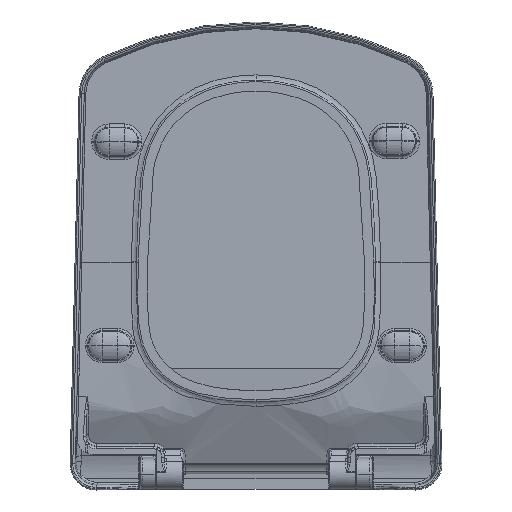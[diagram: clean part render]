
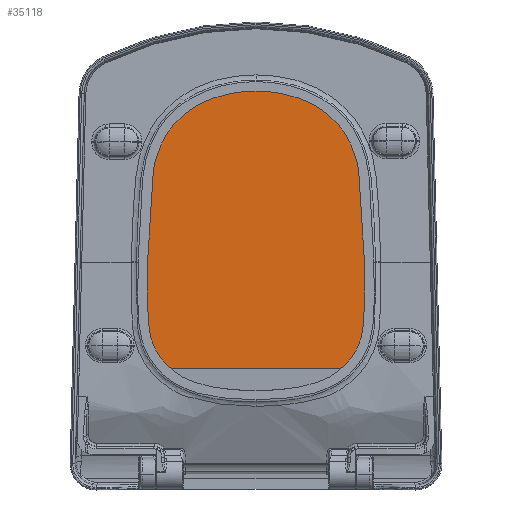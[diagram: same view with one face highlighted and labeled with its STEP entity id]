
A CAD part, front view. The second image highlights one B-rep face of the part: STEP entity #35118.
In plain terms, the highlighted planar face has unit normal (0, -1, 0).
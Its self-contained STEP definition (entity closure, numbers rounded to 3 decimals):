
#440 = CARTESIAN_POINT ( 'NONE',  ( 161.93, 213.99, -17.852 ) ) ;
#575 = CARTESIAN_POINT ( 'NONE',  ( -147.024, 213.99, -306.242 ) ) ;
#774 = EDGE_CURVE ( 'NONE', #20726, #27649, #38428, .T. ) ;
#1004 = CARTESIAN_POINT ( 'NONE',  ( -140.69, 213.99, -43.438 ) ) ;
#1541 = EDGE_CURVE ( 'NONE', #27649, #38213, #8026, .T. ) ;
#3221 = DIRECTION ( 'NONE',  ( 0., 1., 0. ) ) ;
#4021 = CARTESIAN_POINT ( 'NONE',  ( 177.49, 213.99, -40.699 ) ) ;
#4303 = CARTESIAN_POINT ( 'NONE',  ( 170.842, 213.99, -25.217 ) ) ;
#4448 = ORIENTED_EDGE ( 'NONE', *, *, #8669, .F. ) ;
#4754 = EDGE_CURVE ( 'NONE', #5029, #38213, #8108, .T. ) ;
#5029 = VERTEX_POINT ( 'NONE', #9802 ) ;
#5719 = CARTESIAN_POINT ( 'NONE',  ( -140.69, 213.99, -43.438 ) ) ;
#5764 = CARTESIAN_POINT ( 'NONE',  ( -128.421, 213.99, -20.033 ) ) ;
#7118 = CARTESIAN_POINT ( 'NONE',  ( 165.385, 213.99, -20.033 ) ) ;
#7542 = EDGE_CURVE ( 'NONE', #8763, #39810, #27112, .T. ) ;
#8026 = B_SPLINE_CURVE_WITH_KNOTS ( 'NONE', 3,
 ( #1004, #34997, #20899, #575 ),
 .UNSPECIFIED., .F., .F.,
 ( 4, 4 ),
 ( -0.054, 0.209 ),
 .UNSPECIFIED. ) ;
#8108 = LINE ( 'NONE', #16728, #29921 ) ;
#8669 = EDGE_CURVE ( 'NONE', #39810, #5029, #11819, .T. ) ;
#8763 = VERTEX_POINT ( 'NONE', #36428 ) ;
#8807 = ORIENTED_EDGE ( 'NONE', *, *, #7542, .F. ) ;
#8997 = CARTESIAN_POINT ( 'NONE',  ( -139.769, 213.99, -36.69 ) ) ;
#9057 = CARTESIAN_POINT ( 'NONE',  ( -140.69, 213.99, -43.438 ) ) ;
#9144 = CARTESIAN_POINT ( 'NONE',  ( -138.164, 213.99, -32.167 ) ) ;
#9328 = CARTESIAN_POINT ( 'NONE',  ( -137.293, 213.99, -30.313 ) ) ;
#9802 = CARTESIAN_POINT ( 'NONE',  ( 183.987, 213.99, -306.242 ) ) ;
#9808 = AXIS2_PLACEMENT_3D ( 'NONE', #20088, #3221, #26922 ) ;
#10542 = CARTESIAN_POINT ( 'NONE',  ( 171.274, 213.99, -25.754 ) ) ;
#10983 = CARTESIAN_POINT ( 'NONE',  ( 175.897, 213.99, -34.081 ) ) ;
#11819 = B_SPLINE_CURVE_WITH_KNOTS ( 'NONE', 3,
 ( #22904, #42645, #39836, #22315 ),
 .UNSPECIFIED., .F., .F.,
 ( 4, 4 ),
 ( -0.054, 0.209 ),
 .UNSPECIFIED. ) ;
#11828 = CARTESIAN_POINT ( 'NONE',  ( -147.024, 213.99, -306.242 ) ) ;
#11928 = EDGE_CURVE ( 'NONE', #20726, #8763, #35139, .T. ) ;
#12317 = CARTESIAN_POINT ( 'NONE',  ( -131.554, 213.99, -22.667 ) ) ;
#12427 = CARTESIAN_POINT ( 'NONE',  ( -139.16, 213.99, -34.731 ) ) ;
#14412 = CARTESIAN_POINT ( 'NONE',  ( 166.465, 213.99, -20.86 ) ) ;
#15717 = CARTESIAN_POINT ( 'NONE',  ( -135.521, 213.99, -27.41 ) ) ;
#15869 = CARTESIAN_POINT ( 'NONE',  ( -133.879, 213.99, -25.217 ) ) ;
#16288 = DIRECTION ( 'NONE',  ( -1., 0., 0. ) ) ;
#16728 = CARTESIAN_POINT ( 'NONE',  ( 281., 213.99, -306.242 ) ) ;
#17356 = CARTESIAN_POINT ( 'NONE',  ( 177.047, 213.99, -38.014 ) ) ;
#17444 = CARTESIAN_POINT ( 'NONE',  ( 177.654, 213.99, -43.438 ) ) ;
#17652 = CARTESIAN_POINT ( 'NONE',  ( 175.128, 213.99, -32.167 ) ) ;
#17760 = DIRECTION ( 'NONE',  ( 0., 0., -1. ) ) ;
#18901 = CARTESIAN_POINT ( 'NONE',  ( -140.527, 213.99, -40.699 ) ) ;
#19510 = EDGE_LOOP ( 'NONE', ( #32921, #43257, #32306, #32434, #4448, #8807 ) ) ;
#20088 = CARTESIAN_POINT ( 'NONE',  ( 18.482, 213.99, -312.682 ) ) ;
#20726 = VERTEX_POINT ( 'NONE', #21226 ) ;
#20899 = CARTESIAN_POINT ( 'NONE',  ( -144.912, 213.99, -218.64 ) ) ;
#20904 = CARTESIAN_POINT ( 'NONE',  ( 173.596, 213.99, -29.124 ) ) ;
#21017 = CARTESIAN_POINT ( 'NONE',  ( 281., 213.99, -100. ) ) ;
#21053 = CARTESIAN_POINT ( 'NONE',  ( 176.733, 213.99, -36.69 ) ) ;
#21226 = CARTESIAN_POINT ( 'NONE',  ( -123.724, 213.99, -17.254 ) ) ;
#21441 = DIRECTION ( 'NONE',  ( 0., -1., 0. ) ) ;
#21902 = CARTESIAN_POINT ( 'NONE',  ( -123.724, 213.99, -17.254 ) ) ;
#22315 = CARTESIAN_POINT ( 'NONE',  ( 183.987, 213.99, -306.242 ) ) ;
#22668 = CARTESIAN_POINT ( 'NONE',  ( -136.632, 213.99, -29.124 ) ) ;
#22808 = CARTESIAN_POINT ( 'NONE',  ( -129.502, 213.99, -20.86 ) ) ;
#22904 = CARTESIAN_POINT ( 'NONE',  ( 177.654, 213.99, -43.438 ) ) ;
#24021 = CARTESIAN_POINT ( 'NONE',  ( 172.095, 213.99, -26.85 ) ) ;
#24160 = CARTESIAN_POINT ( 'NONE',  ( 177.62, 213.99, -42.059 ) ) ;
#24607 = CARTESIAN_POINT ( 'NONE',  ( 168.517, 213.99, -22.667 ) ) ;
#26922 = DIRECTION ( 'NONE',  ( 0., 0., -1. ) ) ;
#27112 = B_SPLINE_CURVE_WITH_KNOTS ( 'NONE', 3,
 ( #41535, #440, #37815, #7118, #14412, #24607, #37972, #4303, #10542, #24021, #40949, #20904, #37520, #17652, #41388, #10983, #27730, #21053, #17356, #4021, #24160, #28021 ),
 .UNSPECIFIED., .F., .F.,
 ( 4, 2, 2, 2, 2, 2, 2, 2, 2, 2, 4 ),
 ( 0., 0.004, 0.008, 0.012, 0.014, 0.016, 0.02, 0.022, 0.024, 0.029, 0.033 ),
 .UNSPECIFIED. ) ;
#27649 = VERTEX_POINT ( 'NONE', #9057 ) ;
#27730 = CARTESIAN_POINT ( 'NONE',  ( 176.124, 213.99, -34.731 ) ) ;
#28021 = CARTESIAN_POINT ( 'NONE',  ( 177.654, 213.99, -43.438 ) ) ;
#29921 = VECTOR ( 'NONE', #16288, 1000. ) ;
#31413 = PLANE ( 'NONE',  #43866 ) ;
#32306 = ORIENTED_EDGE ( 'NONE', *, *, #1541, .T. ) ;
#32434 = ORIENTED_EDGE ( 'NONE', *, *, #4754, .F. ) ;
#32636 = CARTESIAN_POINT ( 'NONE',  ( -135.131, 213.99, -26.85 ) ) ;
#32744 = CARTESIAN_POINT ( 'NONE',  ( -140.083, 213.99, -38.014 ) ) ;
#32921 = ORIENTED_EDGE ( 'NONE', *, *, #11928, .F. ) ;
#34997 = CARTESIAN_POINT ( 'NONE',  ( -142.801, 213.99, -131.039 ) ) ;
#35118 = ADVANCED_FACE ( 'NONE', ( #41293 ), #31413, .T. ) ;
#35139 = CIRCLE ( 'NONE', #9808, 327.872 ) ;
#36027 = CARTESIAN_POINT ( 'NONE',  ( -132.528, 213.99, -23.651 ) ) ;
#36131 = CARTESIAN_POINT ( 'NONE',  ( -140.657, 213.99, -42.059 ) ) ;
#36176 = CARTESIAN_POINT ( 'NONE',  ( -126.154, 213.99, -18.529 ) ) ;
#36428 = CARTESIAN_POINT ( 'NONE',  ( 160.687, 213.99, -17.254 ) ) ;
#37520 = CARTESIAN_POINT ( 'NONE',  ( 174.257, 213.99, -30.313 ) ) ;
#37815 = CARTESIAN_POINT ( 'NONE',  ( 163.117, 213.99, -18.529 ) ) ;
#37972 = CARTESIAN_POINT ( 'NONE',  ( 169.492, 213.99, -23.651 ) ) ;
#38213 = VERTEX_POINT ( 'NONE', #11828 ) ;
#38428 = B_SPLINE_CURVE_WITH_KNOTS ( 'NONE', 3,
 ( #21902, #39739, #36176, #5764, #22808, #12317, #36027, #15869, #39582, #32636, #15717, #22668, #9328, #9144, #42349, #39239, #12427, #8997, #32744, #18901, #36131, #5719 ),
 .UNSPECIFIED., .F., .F.,
 ( 4, 2, 2, 2, 2, 2, 2, 2, 2, 2, 4 ),
 ( 0., 0.004, 0.008, 0.012, 0.014, 0.016, 0.02, 0.022, 0.024, 0.029, 0.033 ),
 .UNSPECIFIED. ) ;
#39239 = CARTESIAN_POINT ( 'NONE',  ( -138.933, 213.99, -34.081 ) ) ;
#39582 = CARTESIAN_POINT ( 'NONE',  ( -134.311, 213.99, -25.754 ) ) ;
#39739 = CARTESIAN_POINT ( 'NONE',  ( -124.966, 213.99, -17.852 ) ) ;
#39810 = VERTEX_POINT ( 'NONE', #17444 ) ;
#39836 = CARTESIAN_POINT ( 'NONE',  ( 181.876, 213.99, -218.64 ) ) ;
#40949 = CARTESIAN_POINT ( 'NONE',  ( 172.485, 213.99, -27.41 ) ) ;
#41293 = FACE_OUTER_BOUND ( 'NONE', #19510, .T. ) ;
#41388 = CARTESIAN_POINT ( 'NONE',  ( 175.398, 213.99, -32.797 ) ) ;
#41535 = CARTESIAN_POINT ( 'NONE',  ( 160.687, 213.99, -17.254 ) ) ;
#42349 = CARTESIAN_POINT ( 'NONE',  ( -138.435, 213.99, -32.797 ) ) ;
#42645 = CARTESIAN_POINT ( 'NONE',  ( 179.765, 213.99, -131.039 ) ) ;
#43257 = ORIENTED_EDGE ( 'NONE', *, *, #774, .T. ) ;
#43866 = AXIS2_PLACEMENT_3D ( 'NONE', #21017, #21441, #17760 ) ;
